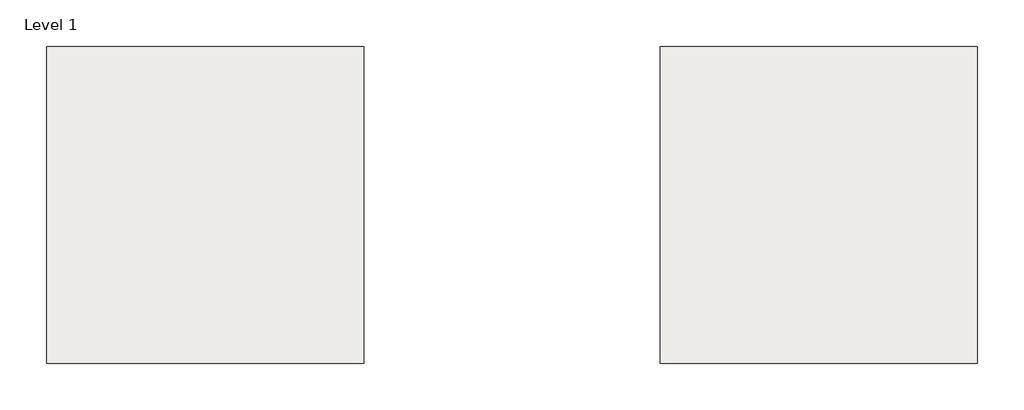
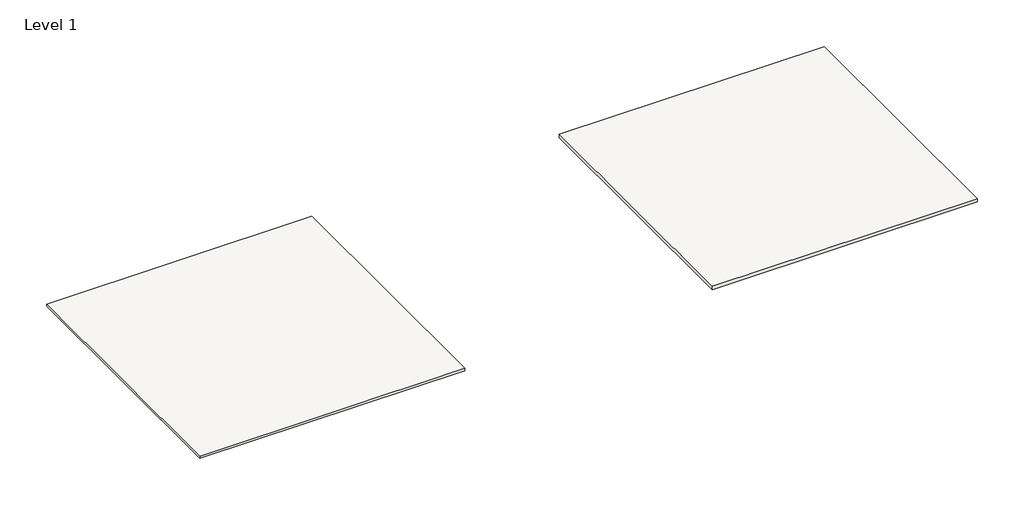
# One storey: 2 slabs.
"""IFC4 building model written with IfcOpenShell, lengths in millimetres."""

from ifc_helpers import new_model, si_unit, frame, origin, place, context, project, spatial, polyline, outline, extrude, element, save

model = new_model("IFC4")

# Units and contexts
model_context = context("Model", 3, world=origin())
ifc_project = project(units=[si_unit("LENGTHUNIT", "METRE", prefix="MILLI")], contexts=[model_context])

# Site, building, storey
site = spatial("IfcSite", under=ifc_project)
building = spatial("IfcBuilding", under=site)
storey = spatial("IfcBuildingStorey", under=building, Name="Level 1", Elevation=0.0)

# Slabs
placement = place(None, origin())
element("IfcSlab", 1, ObjectType="Exterior Decking - Wood - Thermory - Spruce Decking 26x185 D4sg - Smooth", at=placement, inside=storey, context=model_context, shape_type="SweptSolid", body=[
    extrude(outline(polyline([(-7902.6916977, -17093.8314635), (-10950.6916977, -17093.8314635), (-10950.6916977, -14045.8314635), (-7902.6916977, -14045.8314635), (-7902.6916977, -17093.8314635)])), frame((0.0, 0.0, -26.0), z_axis=(0.0, 0.0, 1.0), x_axis=(1.0, 0.0, 0.0)), (0.0, 0.0, 1.0), 26.0),
])
element("IfcSlab", 2, ObjectType="Exterior Decking - Wood - Thermory - Spruce Decking 42x68 D4 - Smooth", at=placement, inside=storey, context=model_context, shape_type="SweptSolid", body=[
    extrude(outline(polyline([(-2002.6916977, -17093.8314635), (-5050.6916977, -17093.8314635), (-5050.6916977, -14045.8314635), (-2002.6916977, -14045.8314635), (-2002.6916977, -17093.8314635)])), frame((0.0, 0.0, -42.0), z_axis=(0.0, 0.0, 1.0), x_axis=(1.0, 0.0, 0.0)), (0.0, 0.0, 1.0), 42.0),
])

save(model, "model.ifc")
